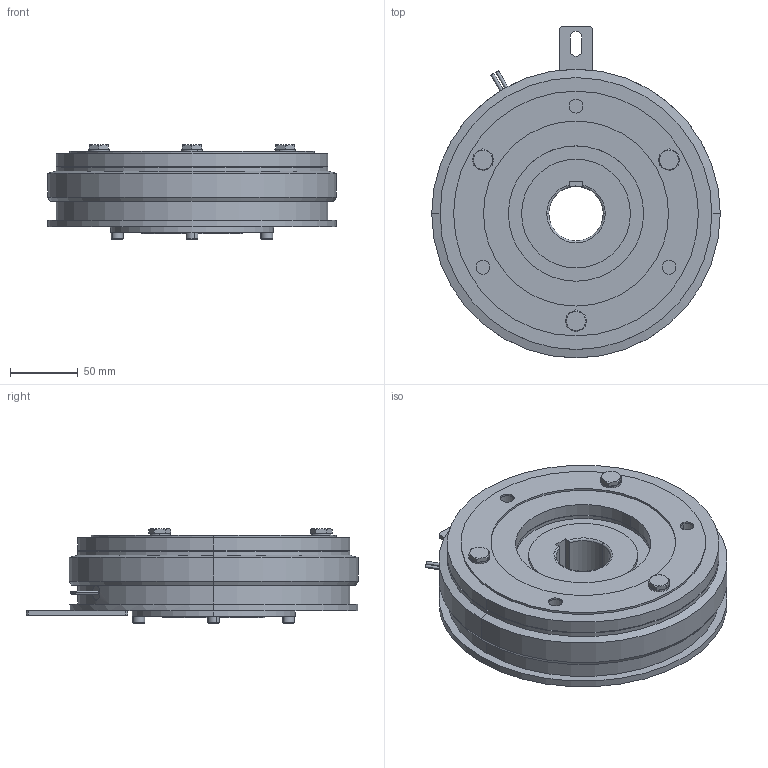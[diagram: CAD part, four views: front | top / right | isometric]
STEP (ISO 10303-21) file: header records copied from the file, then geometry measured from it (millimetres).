
FILE_DESCRIPTION (( 'STEP AP214' ), '1' );
FILE_NAME ('CS-20-33G 40JIS.STEP', '2018-02-06T02:58:39', ( 'MIKI' ), ( '' ), 'SwSTEP 2.0', 'SolidWorks 2012', '' );
FILE_SCHEMA (( 'AUTOMOTIVE_DESIGN' ));
Length unit declared in the file: millimetre
Products named in the file (1): CS-20-33G 40JIS
Bounding box: 212.3 x 244.15 x 69.4 mm (x, y, z)
Volume: 1692579.4 mm3; surface area: 173455.8 mm2
Topology: 1 solids, 10 shells, 341 faces, 767 edges, 474 vertices
Faces by surface type: plane 156, cylinder 125, cone 54, torus 6
Entity records: 13492 total; most frequent: CARTESIAN_POINT 1909, DIRECTION 1751, ORIENTED_EDGE 1510, EDGE_CURVE 755, AXIS2_PLACEMENT_3D 696, VERTEX_POINT 474, EDGE_LOOP 397, LINE 359
